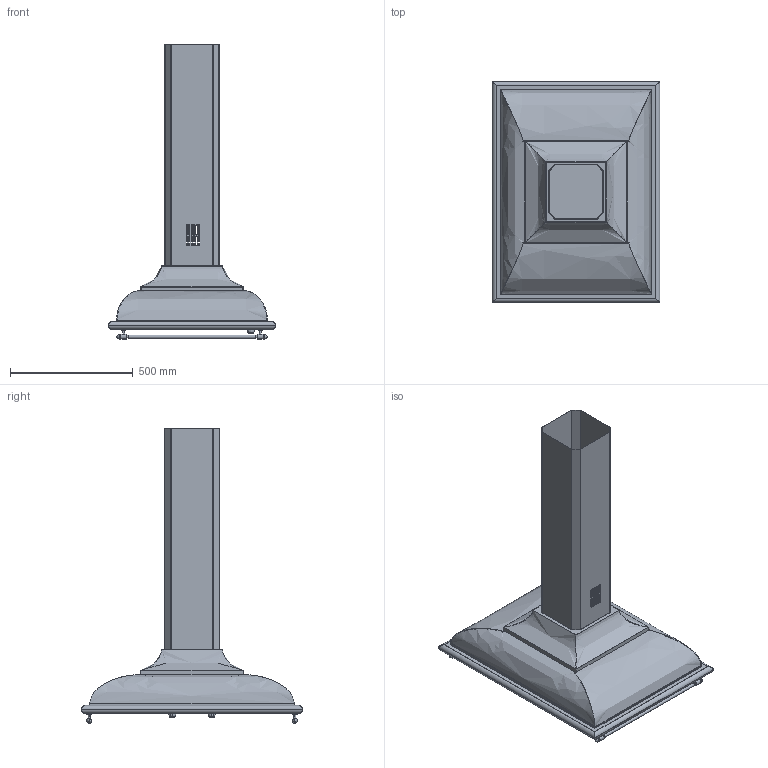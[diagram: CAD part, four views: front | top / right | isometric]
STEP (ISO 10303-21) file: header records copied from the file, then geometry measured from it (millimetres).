
FILE_DESCRIPTION(('CATIA V5 STEP Exchange'),'2;1');
FILE_NAME('C:\Users\linop\Desktop\KCI19AOE.stp','2018-06-01T12:58:43+00:00',('none'),('none'),'CATIA Version 5-6 Release 2014','CATIA V5 STEP AP203','none');
FILE_SCHEMA(('CONFIG_CONTROL_DESIGN'));
Length unit declared in the file: millimetre
Products named in the file (1): KCI19AOE
Bounding box: 682 x 900 x 1199.18 mm (x, y, z)
Volume: 5405874.6 mm3; surface area: 4702644.4 mm2
Topology: 14 solids, 14 shells, 462 faces, 1220 edges, 836 vertices
Faces by surface type: plane 242, cylinder 172, revolution 24, extrusion 16, torus 8
Entity records: 15531 total; most frequent: CARTESIAN_POINT 4907, ORIENTED_EDGE 2440, DIRECTION 1560, EDGE_CURVE 1220, VERTEX_POINT 836, VECTOR 659, LINE 643, AXIS2_PLACEMENT_3D 620
